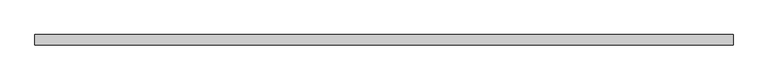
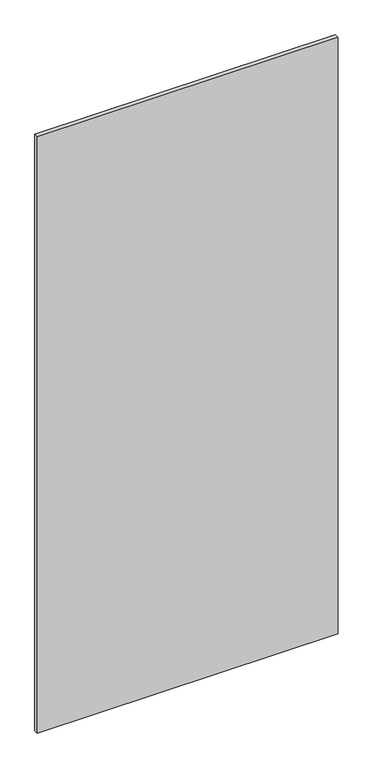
"""IFC4 building model written with IfcOpenShell, lengths in millimetres: plate geometry, 系统嵌板 : 玻璃."""

from ifc_helpers import new_model, si_unit, origin, origin_with_axes, place, context, project, spatial, polyline, outline, extrude, source, transform, mapped, element, save


def plate_86659188(model_context):
    return source(origin(), model_context, "Body", "SweptSolid", [
        extrude(outline(polyline([(858.75, -12.5), (-858.75, -12.5), (-858.75, 12.5), (858.75, 12.5), (858.75, -12.5)])), origin_with_axes(), (0.0, 0.0, 1.0), 3600.0),
    ])


if __name__ == "__main__":
    model = new_model("IFC4")
    model_context = context("Model", 3, world=origin())
    ifc_project = project(units=[si_unit("LENGTHUNIT", "METRE", prefix="MILLI")], contexts=[model_context])
    site = spatial("IfcSite", under=ifc_project)
    building = spatial("IfcBuilding", under=site)
    placement = place(None, origin())
    plate_shape = plate_86659188(model_context)
    element("IfcPlate", 1, ObjectType="系统嵌板 : 玻璃", at=placement, inside=building, context=model_context, shape_type="MappedRepresentation", body=[
        mapped(plate_shape, transform((0.0, 0.0, 0.0), x_axis=(1.0, 0.0, 0.0), y_axis=(0.0, 1.0, 0.0), z_axis=(0.0, 0.0, 1.0))),
    ])
    save(model, "model.ifc")
